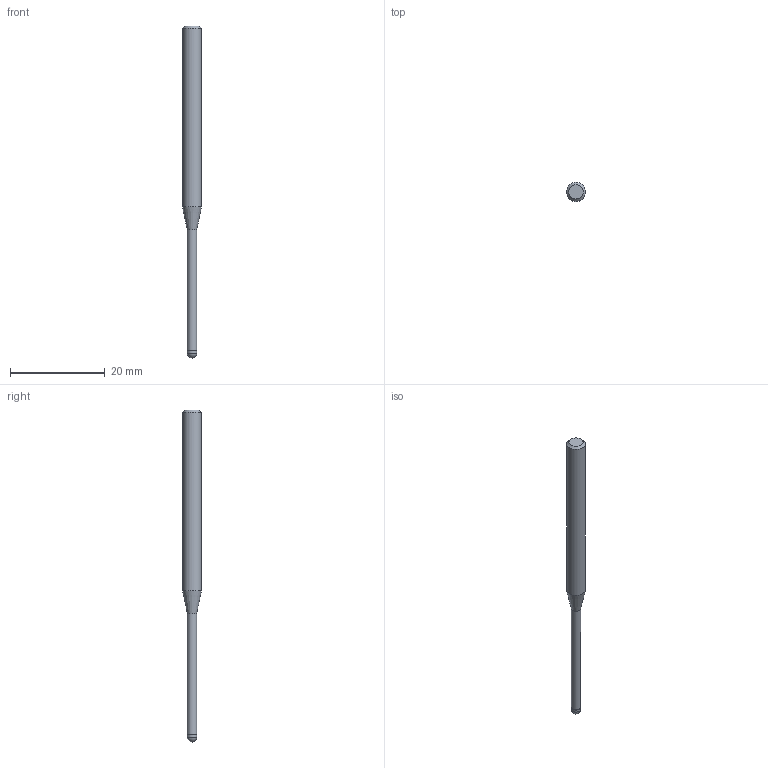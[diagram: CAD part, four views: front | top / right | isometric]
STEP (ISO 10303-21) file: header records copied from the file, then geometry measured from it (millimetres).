
FILE_DESCRIPTION((''),'2;1');
FILE_NAME('C:\Users\nsx150\AppData\Local\Temp\Mastercam 2021\ARV7HD45SN\TEMP.step','2023-06-13T16:37:52',(''),(''),'STEP Write','Mastercam 2021 ... CNC Software, Inc.','');
FILE_SCHEMA(('AUTOMOTIVE_DESIGN'));
Length unit declared in the file: millimetre
Products named in the file (1): None
Bounding box: 4 x 4 x 70 mm (x, y, z)
Volume: 592 mm3; surface area: 705.2 mm2
Topology: 2 solids, 2 shells, 9 faces, 14 edges, 8 vertices
Faces by surface type: plane 3, cylinder 3, cone 2, sphere 1
Full cylindrical faces by diameter (mm): 1.94 x1, 2 x1, 4 x1
Entity records: 211 total; most frequent: DIRECTION 36, CARTESIAN_POINT 25, AXIS2_PLACEMENT_3D 18, ORIENTED_EDGE 14, EDGE_LOOP 14, STYLED_ITEM 12, ADVANCED_FACE 9, FACE_BOUND 8
